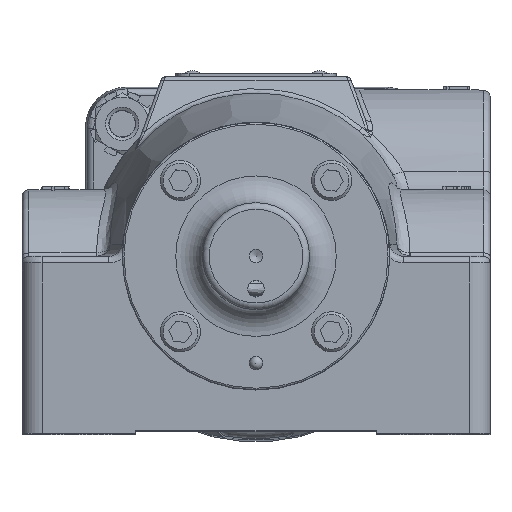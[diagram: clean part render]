
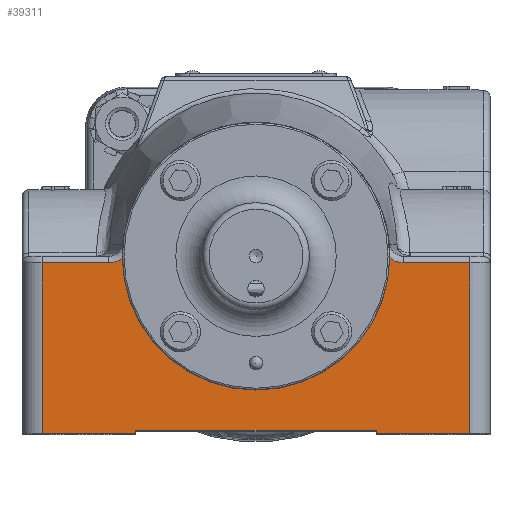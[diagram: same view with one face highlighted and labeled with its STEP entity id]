
A CAD part, top view. The second image highlights one B-rep face of the part: STEP entity #39311.
In plain terms, the highlighted planar face has unit normal (0, 0, 1).
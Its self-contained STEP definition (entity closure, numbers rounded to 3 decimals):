
#1183=B_SPLINE_CURVE_WITH_KNOTS('',3,(#67724,#67725,#67726,#67727,#67728),
 .UNSPECIFIED.,.F.,.F.,(4,1,4),(0.,0.291,0.347),
 .UNSPECIFIED.);
#1190=B_SPLINE_CURVE_WITH_KNOTS('',3,(#67906,#67907,#67908,#67909),
 .UNSPECIFIED.,.F.,.F.,(4,4),(0.356,0.703),
 .UNSPECIFIED.);
#2858=LINE('',#66452,#4815);
#2924=LINE('',#67490,#4881);
#2929=LINE('',#67503,#4886);
#2932=LINE('',#67507,#4889);
#2933=LINE('',#67509,#4890);
#2945=LINE('',#67561,#4902);
#2951=LINE('',#67618,#4908);
#2953=LINE('',#67792,#4910);
#2961=LINE('',#68028,#4918);
#4815=VECTOR('',#47841,2.223);
#4881=VECTOR('',#48093,5.715);
#4886=VECTOR('',#48106,2.223);
#4889=VECTOR('',#48111,0.079);
#4890=VECTOR('',#48114,0.079);
#4902=VECTOR('',#48154,4.048);
#4908=VECTOR('',#48232,1.583);
#4910=VECTOR('',#48240,1.583);
#4918=VECTOR('',#48336,4.048);
#6880=PLANE('',#42332);
#8913=FACE_OUTER_BOUND('',#11534,.T.);
#11534=EDGE_LOOP('',(#28956,#28957,#28958,#28959,#28960,#28961,#28962,#28963,
#28964,#28965,#28966,#28967));
#14026=CIRCLE('',#42203,3.178);
#16359=VERTEX_POINT('',#66436);
#16365=VERTEX_POINT('',#66450);
#16422=VERTEX_POINT('',#67487);
#16423=VERTEX_POINT('',#67489);
#16425=VERTEX_POINT('',#67499);
#16427=VERTEX_POINT('',#67502);
#16444=VERTEX_POINT('',#67560);
#16458=VERTEX_POINT('',#67614);
#16462=VERTEX_POINT('',#67696);
#16467=VERTEX_POINT('',#67785);
#16470=VERTEX_POINT('',#67790);
#16492=VERTEX_POINT('',#67885);
#20462=EDGE_CURVE('',#16359,#16365,#2858,.T.);
#20587=EDGE_CURVE('',#16423,#16422,#2924,.T.);
#20593=EDGE_CURVE('',#16427,#16425,#2929,.T.);
#20596=EDGE_CURVE('',#16365,#16423,#2932,.T.);
#20597=EDGE_CURVE('',#16422,#16427,#2933,.T.);
#20619=EDGE_CURVE('',#16359,#16444,#2945,.T.);
#20648=EDGE_CURVE('',#16444,#16458,#2951,.T.);
#20653=EDGE_CURVE('',#16458,#16462,#1183,.T.);
#20662=EDGE_CURVE('',#16470,#16467,#2953,.T.);
#20698=EDGE_CURVE('',#16492,#16470,#1190,.T.);
#20709=EDGE_CURVE('',#16467,#16425,#2961,.T.);
#20767=EDGE_CURVE('',#16462,#16492,#14026,.T.);
#28956=ORIENTED_EDGE('',*,*,#20593,.T.);
#28957=ORIENTED_EDGE('',*,*,#20709,.F.);
#28958=ORIENTED_EDGE('',*,*,#20662,.F.);
#28959=ORIENTED_EDGE('',*,*,#20698,.F.);
#28960=ORIENTED_EDGE('',*,*,#20767,.F.);
#28961=ORIENTED_EDGE('',*,*,#20653,.F.);
#28962=ORIENTED_EDGE('',*,*,#20648,.F.);
#28963=ORIENTED_EDGE('',*,*,#20619,.F.);
#28964=ORIENTED_EDGE('',*,*,#20462,.T.);
#28965=ORIENTED_EDGE('',*,*,#20596,.T.);
#28966=ORIENTED_EDGE('',*,*,#20587,.T.);
#28967=ORIENTED_EDGE('',*,*,#20597,.T.);
#39311=ADVANCED_FACE('',(#8913),#6880,.T.);
#42203=AXIS2_PLACEMENT_3D('',#68655,#48406,#48407);
#42332=AXIS2_PLACEMENT_3D('',#83417,#48876,#48877);
#47841=DIRECTION('',(1.,0.,0.));
#48093=DIRECTION('',(1.,0.,0.));
#48106=DIRECTION('',(1.,0.,0.));
#48111=DIRECTION('',(0.,1.,0.));
#48114=DIRECTION('',(0.,-1.,0.));
#48154=DIRECTION('',(0.,1.,0.));
#48232=DIRECTION('',(1.,0.,0.));
#48240=DIRECTION('',(1.,0.,0.));
#48336=DIRECTION('',(0.,-1.,0.));
#48406=DIRECTION('center_axis',(0.,0.,1.));
#48407=DIRECTION('ref_axis',(-1.,0.,0.));
#48876=DIRECTION('center_axis',(0.,0.,1.));
#48877=DIRECTION('ref_axis',(1.,0.,0.));
#66436=CARTESIAN_POINT('',(-5.08,-4.207,8.652));
#66450=CARTESIAN_POINT('',(-2.858,-4.207,8.652));
#66452=CARTESIAN_POINT('',(0.,-4.207,8.652));
#67487=CARTESIAN_POINT('',(2.858,-4.128,8.652));
#67489=CARTESIAN_POINT('',(-2.858,-4.128,8.652));
#67490=CARTESIAN_POINT('',(0.,-4.128,8.652));
#67499=CARTESIAN_POINT('',(5.08,-4.207,8.652));
#67502=CARTESIAN_POINT('',(2.858,-4.207,8.652));
#67503=CARTESIAN_POINT('',(0.,-4.207,8.652));
#67507=CARTESIAN_POINT('',(-2.858,-4.247,8.652));
#67509=CARTESIAN_POINT('',(2.858,-4.247,8.652));
#67560=CARTESIAN_POINT('',(-5.08,-0.159,8.652));
#67561=CARTESIAN_POINT('',(-5.08,-3.215,8.652));
#67614=CARTESIAN_POINT('',(-3.497,-0.159,8.652));
#67618=CARTESIAN_POINT('',(0.,-0.159,8.652));
#67696=CARTESIAN_POINT('',(-3.177,-0.037,8.652));
#67724=CARTESIAN_POINT('Ctrl Pts',(-3.497,-0.159,
8.652));
#67725=CARTESIAN_POINT('Ctrl Pts',(-3.4,-0.159,
8.652));
#67726=CARTESIAN_POINT('Ctrl Pts',(-3.283,-0.122,
8.652));
#67727=CARTESIAN_POINT('Ctrl Pts',(-3.192,-0.05,
8.652));
#67728=CARTESIAN_POINT('Ctrl Pts',(-3.178,-0.037,
8.652));
#67785=CARTESIAN_POINT('',(5.08,-0.159,8.652));
#67790=CARTESIAN_POINT('',(3.497,-0.159,8.652));
#67792=CARTESIAN_POINT('',(0.,-0.159,8.652));
#67885=CARTESIAN_POINT('',(3.177,-0.037,8.652));
#67906=CARTESIAN_POINT('Ctrl Pts',(3.178,-0.037,
8.652));
#67907=CARTESIAN_POINT('Ctrl Pts',(3.265,-0.114,
8.652));
#67908=CARTESIAN_POINT('Ctrl Pts',(3.381,-0.159,
8.652));
#67909=CARTESIAN_POINT('Ctrl Pts',(3.497,-0.159,
8.652));
#68028=CARTESIAN_POINT('',(5.08,-3.215,8.652));
#68655=CARTESIAN_POINT('Origin',(0.,0.,8.652));
#83417=CARTESIAN_POINT('Origin',(0.,-4.286,8.652));
